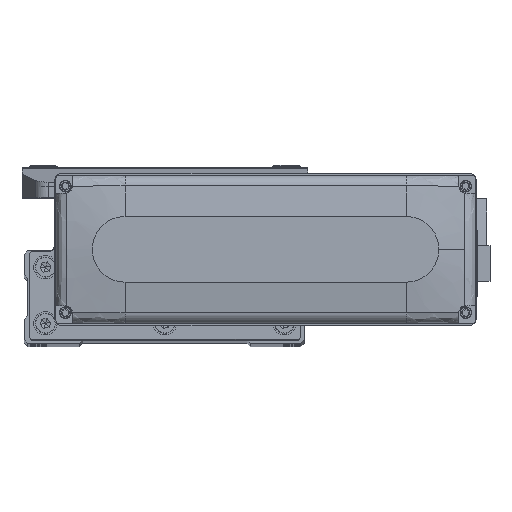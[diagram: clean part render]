
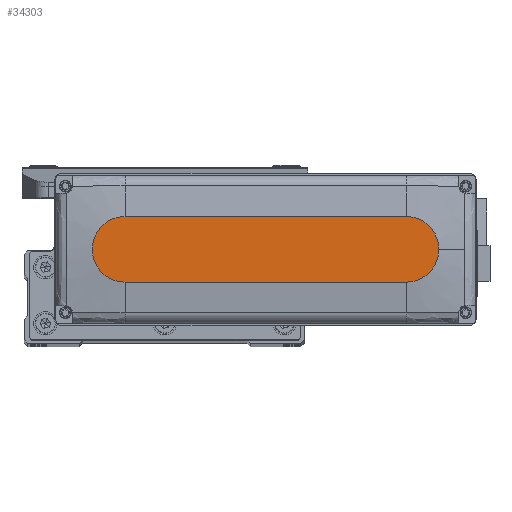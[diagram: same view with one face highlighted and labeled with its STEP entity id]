
A CAD part, top view. The second image highlights one B-rep face of the part: STEP entity #34303.
In plain terms, the highlighted planar face has unit normal (0, 0, 1).
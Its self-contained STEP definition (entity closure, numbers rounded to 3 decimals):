
#41 = AXIS2_PLACEMENT_3D ( 'NONE', #13133, #27320, #41471 ) ;
#445 = CARTESIAN_POINT ( 'NONE',  ( 74., 0., 28.5 ) ) ;
#1348 = AXIS2_PLACEMENT_3D ( 'NONE', #29581, #43724, #11917 ) ;
#3275 = CARTESIAN_POINT ( 'NONE',  ( -60., -14., 28.5 ) ) ;
#4044 = CIRCLE ( 'NONE', #30005, 14. ) ;
#4531 = CARTESIAN_POINT ( 'NONE',  ( -60., 14., 28.5 ) ) ;
#9036 = EDGE_CURVE ( 'NONE', #9782, #19606, #21367, .T. ) ;
#9782 = VERTEX_POINT ( 'NONE', #25933 ) ;
#11386 = CARTESIAN_POINT ( 'NONE',  ( 0., 0., 28.5 ) ) ;
#11917 = DIRECTION ( 'NONE',  ( 1., 0., 0. ) ) ;
#12906 = ORIENTED_EDGE ( 'NONE', *, *, #13915, .T. ) ;
#13133 = CARTESIAN_POINT ( 'NONE',  ( 60., 0., 28.5 ) ) ;
#13915 = EDGE_CURVE ( 'NONE', #19606, #14234, #35097, .T. ) ;
#14231 = VECTOR ( 'NONE', #17424, 1000. ) ;
#14234 = VERTEX_POINT ( 'NONE', #26924 ) ;
#14758 = AXIS2_PLACEMENT_3D ( 'NONE', #11386, #25561, #39721 ) ;
#15294 = ORIENTED_EDGE ( 'NONE', *, *, #9036, .T. ) ;
#17033 = CARTESIAN_POINT ( 'NONE',  ( 60., 0., 28.5 ) ) ;
#17424 = DIRECTION ( 'NONE',  ( 1., 0., 0. ) ) ;
#17954 = CARTESIAN_POINT ( 'NONE',  ( -60., -14., 28.5 ) ) ;
#18685 = DIRECTION ( 'NONE',  ( -1., 0., 0. ) ) ;
#19227 = EDGE_CURVE ( 'NONE', #43300, #9782, #36356, .T. ) ;
#19606 = VERTEX_POINT ( 'NONE', #17954 ) ;
#20044 = CIRCLE ( 'NONE', #41, 14. ) ;
#20329 = ORIENTED_EDGE ( 'NONE', *, *, #30091, .T. ) ;
#21367 = CIRCLE ( 'NONE', #1348, 14. ) ;
#25561 = DIRECTION ( 'NONE',  ( 0., 0., 1. ) ) ;
#25933 = CARTESIAN_POINT ( 'NONE',  ( -60., 14., 28.5 ) ) ;
#26924 = CARTESIAN_POINT ( 'NONE',  ( 60., -14., 28.5 ) ) ;
#27320 = DIRECTION ( 'NONE',  ( 0., 0., 1. ) ) ;
#28000 = VECTOR ( 'NONE', #18685, 1000. ) ;
#29062 = FACE_OUTER_BOUND ( 'NONE', #31671, .T. ) ;
#29581 = CARTESIAN_POINT ( 'NONE',  ( -60., 0., 28.5 ) ) ;
#30005 = AXIS2_PLACEMENT_3D ( 'NONE', #17033, #31225, #45369 ) ;
#30091 = EDGE_CURVE ( 'NONE', #14234, #45431, #20044, .T. ) ;
#31014 = CARTESIAN_POINT ( 'NONE',  ( 60., 14., 28.5 ) ) ;
#31225 = DIRECTION ( 'NONE',  ( 0., 0., 1. ) ) ;
#31671 = EDGE_LOOP ( 'NONE', ( #33946, #15294, #12906, #20329, #39777 ) ) ;
#33946 = ORIENTED_EDGE ( 'NONE', *, *, #19227, .T. ) ;
#34303 = ADVANCED_FACE ( 'NONE', ( #29062 ), #43213, .T. ) ;
#35097 = LINE ( 'NONE', #3275, #14231 ) ;
#36356 = LINE ( 'NONE', #4531, #28000 ) ;
#36418 = EDGE_CURVE ( 'NONE', #45431, #43300, #4044, .T. ) ;
#39721 = DIRECTION ( 'NONE',  ( 1., 0., 0. ) ) ;
#39777 = ORIENTED_EDGE ( 'NONE', *, *, #36418, .T. ) ;
#41471 = DIRECTION ( 'NONE',  ( 1., 0., 0. ) ) ;
#43213 = PLANE ( 'NONE',  #14758 ) ;
#43300 = VERTEX_POINT ( 'NONE', #31014 ) ;
#43724 = DIRECTION ( 'NONE',  ( 0., 0., 1. ) ) ;
#45369 = DIRECTION ( 'NONE',  ( 1., 0., 0. ) ) ;
#45431 = VERTEX_POINT ( 'NONE', #445 ) ;
